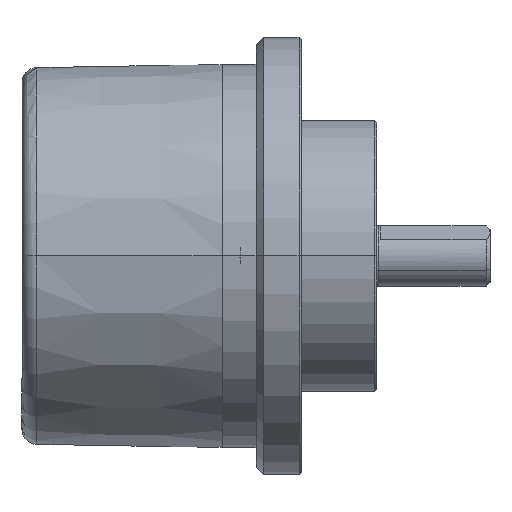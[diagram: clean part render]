
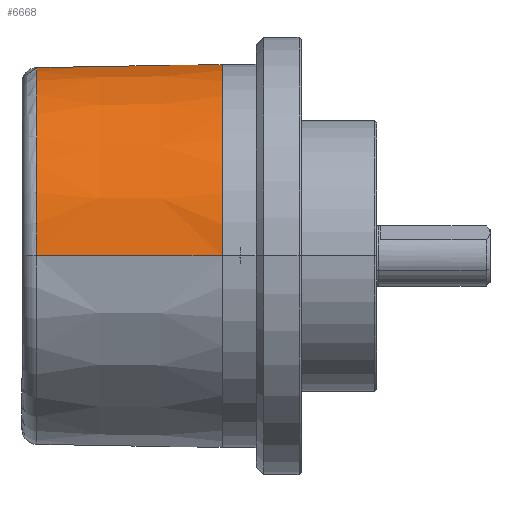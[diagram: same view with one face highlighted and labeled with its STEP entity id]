
A CAD part, top view. The second image highlights one B-rep face of the part: STEP entity #6668.
In plain terms, the highlighted conical face has half-angle 1 degrees and reference radius 25.4 mm.
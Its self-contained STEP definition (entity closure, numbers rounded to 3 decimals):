
#22 = DIRECTION ( 'NONE',  ( 0., 0., 1. ) ) ;
#217 = CARTESIAN_POINT ( 'NONE',  ( 5.5, 0., 0. ) ) ;
#223 = AXIS2_PLACEMENT_3D ( 'NONE', #4790, #4780, #4762 ) ;
#368 = DIRECTION ( 'NONE',  ( 1., 0., 0. ) ) ;
#635 = CIRCLE ( 'NONE', #9442, 25.4 ) ;
#679 = CARTESIAN_POINT ( 'NONE',  ( 5.5, 0., 0. ) ) ;
#1673 = DIRECTION ( 'NONE',  ( 0., 0., -1. ) ) ;
#1744 = DIRECTION ( 'NONE',  ( -1., 0., 0. ) ) ;
#1975 = CARTESIAN_POINT ( 'NONE',  ( -19.035, 17.138, -18.162 ) ) ;
#1989 = CARTESIAN_POINT ( 'NONE',  ( -19.006, 17.139, -18.163 ) ) ;
#2021 = CARTESIAN_POINT ( 'NONE',  ( -18.948, 17.138, -18.165 ) ) ;
#2030 = CARTESIAN_POINT ( 'NONE',  ( 5.5, 16.106, -19.64 ) ) ;
#2046 = CARTESIAN_POINT ( 'NONE',  ( -18.977, 17.139, -18.163 ) ) ;
#2468 = EDGE_CURVE ( 'NONE', #2560, #3774, #7578, .T. ) ;
#2560 = VERTEX_POINT ( 'NONE', #5994 ) ;
#2889 = FACE_OUTER_BOUND ( 'NONE', #6781, .T. ) ;
#2945 = EDGE_CURVE ( 'NONE', #4127, #9169, #9461, .T. ) ;
#3127 = CARTESIAN_POINT ( 'NONE',  ( 3.552, 16.781, -19.022 ) ) ;
#3131 = CARTESIAN_POINT ( 'NONE',  ( 3.921, 16.775, -19.036 ) ) ;
#3149 = CARTESIAN_POINT ( 'NONE',  ( 4.279, 16.699, -19.111 ) ) ;
#3152 = CARTESIAN_POINT ( 'NONE',  ( 4.767, 16.519, -19.278 ) ) ;
#3161 = CARTESIAN_POINT ( 'NONE',  ( 4.924, 16.447, -19.343 ) ) ;
#3164 = CARTESIAN_POINT ( 'NONE',  ( 5.222, 16.288, -19.484 ) ) ;
#3165 = EDGE_CURVE ( 'NONE', #4528, #2560, #7741, .T. ) ;
#3225 = CARTESIAN_POINT ( 'NONE',  ( 5.5, 16.106, -19.64 ) ) ;
#3372 = CARTESIAN_POINT ( 'NONE',  ( 5.364, 16.2, -19.56 ) ) ;
#3747 = CARTESIAN_POINT ( 'NONE',  ( -19.035, 17.138, -18.162 ) ) ;
#3774 = VERTEX_POINT ( 'NONE', #8811 ) ;
#3865 = DIRECTION ( 'NONE',  ( 1., 0., 0.017 ) ) ;
#3985 = CARTESIAN_POINT ( 'NONE',  ( 5.5, 0., 25.4 ) ) ;
#4127 = VERTEX_POINT ( 'NONE', #8027 ) ;
#4381 = VECTOR ( 'NONE', #3865, 1000. ) ;
#4528 = VERTEX_POINT ( 'NONE', #2030 ) ;
#4529 = CARTESIAN_POINT ( 'NONE',  ( 5.5, 0., 25.4 ) ) ;
#4762 = DIRECTION ( 'NONE',  ( 0., 0., -1. ) ) ;
#4780 = DIRECTION ( 'NONE',  ( 1., 0., 0. ) ) ;
#4790 = CARTESIAN_POINT ( 'NONE',  ( -19.035, 0., 0. ) ) ;
#4979 = ORIENTED_EDGE ( 'NONE', *, *, #2468, .T. ) ;
#5227 = EDGE_CURVE ( 'NONE', #5339, #4127, #9489, .T. ) ;
#5339 = VERTEX_POINT ( 'NONE', #3747 ) ;
#5480 = EDGE_CURVE ( 'NONE', #3774, #5339, #6825, .T. ) ;
#5760 = EDGE_CURVE ( 'NONE', #9169, #4528, #635, .T. ) ;
#5994 = CARTESIAN_POINT ( 'NONE',  ( 3.552, 16.781, -19.022 ) ) ;
#6479 = CARTESIAN_POINT ( 'NONE',  ( -18.948, 17.138, -18.165 ) ) ;
#6494 = CARTESIAN_POINT ( 'NONE',  ( -3.948, 16.895, -18.747 ) ) ;
#6529 = CARTESIAN_POINT ( 'NONE',  ( -11.448, 17.014, -18.462 ) ) ;
#6530 = CARTESIAN_POINT ( 'NONE',  ( 3.552, 16.781, -19.022 ) ) ;
#6668 = ADVANCED_FACE ( 'NONE', ( #2889 ), #6729, .T. ) ;
#6729 = CONICAL_SURFACE ( 'NONE', #8881, 25.4, 0.017 ) ;
#6781 = EDGE_LOOP ( 'NONE', ( #8091, #8074, #8619, #8777, #4979, #8023 ) ) ;
#6825 = B_SPLINE_CURVE_WITH_KNOTS ( 'NONE', 3,
 ( #2021, #2046, #1989, #1975 ),
 .UNSPECIFIED., .F., .F.,
 ( 4, 4 ),
 ( 0., 0. ),
 .UNSPECIFIED. ) ;
#7578 = B_SPLINE_CURVE_WITH_KNOTS ( 'NONE', 3,
 ( #6530, #6494, #6529, #6479 ),
 .UNSPECIFIED., .F., .F.,
 ( 4, 4 ),
 ( 0., 0.023 ),
 .UNSPECIFIED. ) ;
#7741 = B_SPLINE_CURVE_WITH_KNOTS ( 'NONE', 3,
 ( #3225, #3372, #3164, #3161, #3152, #3149, #3131, #3127 ),
 .UNSPECIFIED., .F., .F.,
 ( 4, 2, 2, 4 ),
 ( 0., 0.001, 0.001, 0.002 ),
 .UNSPECIFIED. ) ;
#8023 = ORIENTED_EDGE ( 'NONE', *, *, #5480, .T. ) ;
#8027 = CARTESIAN_POINT ( 'NONE',  ( -19.035, 0., 24.972 ) ) ;
#8074 = ORIENTED_EDGE ( 'NONE', *, *, #2945, .T. ) ;
#8091 = ORIENTED_EDGE ( 'NONE', *, *, #5227, .T. ) ;
#8619 = ORIENTED_EDGE ( 'NONE', *, *, #5760, .T. ) ;
#8777 = ORIENTED_EDGE ( 'NONE', *, *, #3165, .T. ) ;
#8811 = CARTESIAN_POINT ( 'NONE',  ( -18.948, 17.138, -18.165 ) ) ;
#8881 = AXIS2_PLACEMENT_3D ( 'NONE', #217, #368, #22 ) ;
#9169 = VERTEX_POINT ( 'NONE', #4529 ) ;
#9442 = AXIS2_PLACEMENT_3D ( 'NONE', #679, #1744, #1673 ) ;
#9461 = LINE ( 'NONE', #3985, #4381 ) ;
#9489 = CIRCLE ( 'NONE', #223, 24.972 ) ;
